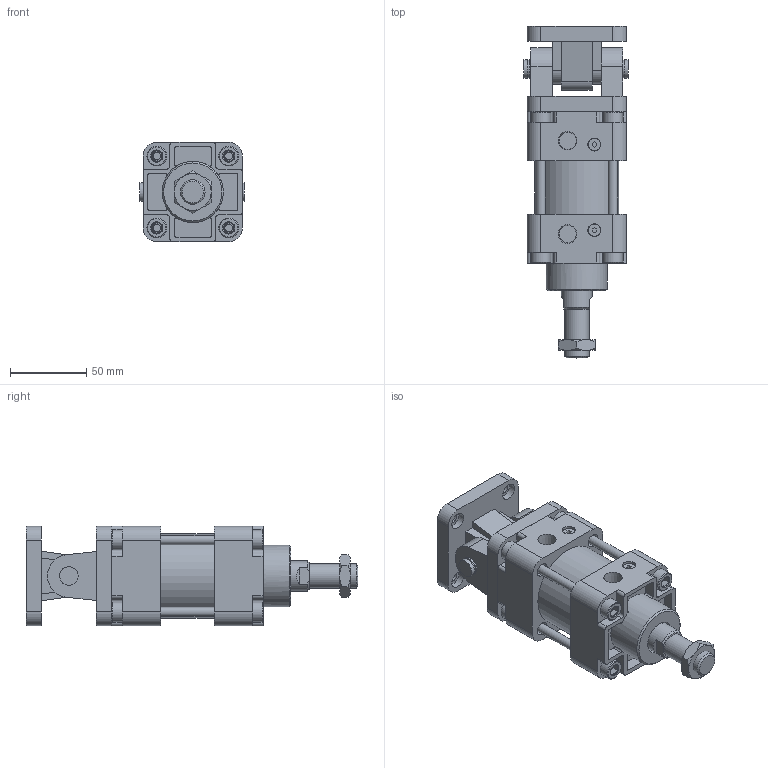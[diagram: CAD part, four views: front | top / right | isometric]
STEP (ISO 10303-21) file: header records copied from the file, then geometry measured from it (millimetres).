
FILE_DESCRIPTION(/* description */ ('Unknown'),/* implementation_level */ '2;1');
FILE_NAME(/* name */ 'WA50-0-CD',/* time_stamp */ '2026-07-17T16:52:08+08:00',/* author */ ('Unknown'),/* organization */ ('Unknown'),/* preprocessor_version */ 'ST-DEVELOPER v16.7',/* originating_system */ 'DEX',/* authorisation */ $);
FILE_SCHEMA (('CONFIG_CONTROL_DESIGN'));
Length unit declared in the file: millimetre
Products named in the file (10): WA50-0-CD; WA50_前; WA50_鋁; WA50_後; WA50_､ﾟｶbｬ｡%; WA50_CA; WA50_T帽牙T; WA50_CBP; M16-1.5P-8_螺; WA50_CB
Assembly tree (12 placements, depth 2):
  WA50-0-CD
    WA50_前
    WA50_鋁
    WA50_後
    WA50_､ﾟｶbｬ｡%
    WA50_CA
    WA50_T帽牙T  x4
    WA50_CBP
    M16-1.5P-8_螺
    WA50_CB
Bounding box: 68 x 217 x 65 mm (x, y, z)
Volume: 483230.6 mm3; surface area: 125843.2 mm2
Topology: 12 solids, 12 shells, 443 faces, 1068 edges, 721 vertices
Faces by surface type: plane 250, cylinder 156, cone 37
Full cylindrical faces by diameter (mm): 5 x8, 6 x4, 7 x8, 8 x2, 8.5 x2, 8.8 x8, 9 x8, 11 x8, 11.5 x2, 12 x6, 13 x8, 14.5 x1, 16 x1, 20 x2, 40 x1, 49.5 x1, 50 x3, 55 x1
Entity records: 11623 total; most frequent: CARTESIAN_POINT 1735, DIRECTION 1732, ORIENTED_EDGE 1498, EDGE_CURVE 749, AXIS2_PLACEMENT_3D 660, VERTEX_POINT 535, EDGE_LOOP 488, FACE_BOUND 488
